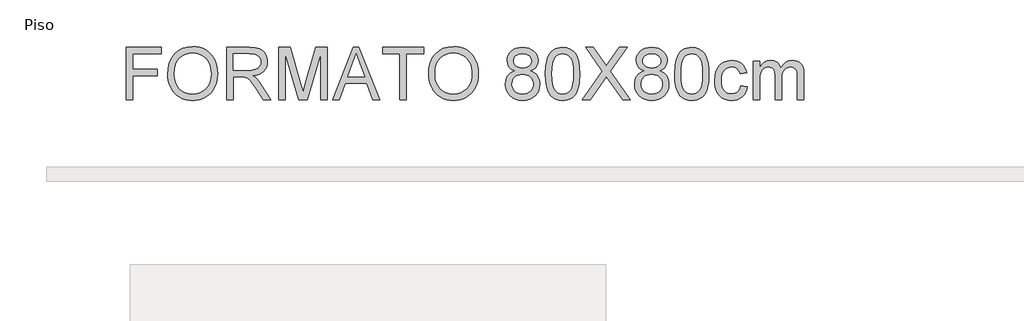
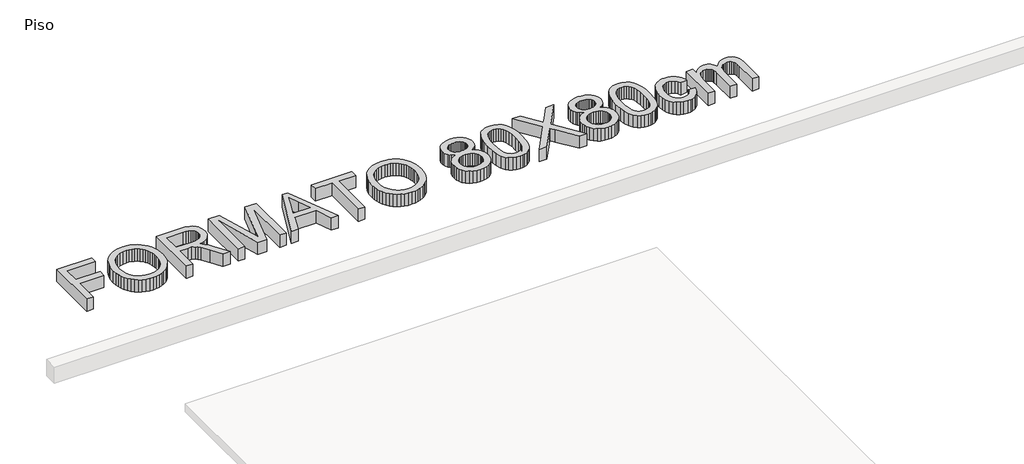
# One storey, part 2 of 2: 1 proxy.
"""IFC4 building model written with IfcOpenShell, lengths in millimetres."""

from ifc_helpers import new_model, si_unit, origin, origin_with_axes, place, context, project, spatial, polyline, outline, extrude, element, save

model = new_model("IFC4")

# Units and contexts
model_context = context("Model", 3, world=origin())
ifc_project = project(units=[si_unit("LENGTHUNIT", "METRE", prefix="MILLI")], contexts=[model_context])

# Site, building, storey
site = spatial("IfcSite", under=ifc_project)
building = spatial("IfcBuilding", under=site)
storey = spatial("IfcBuildingStorey", under=building, Name="Piso", Elevation=0.0)

# Proxy
placement = place(None, origin())
element("IfcBuildingElementProxy", 1, Name="600mm Arial", ObjectType="600mm Arial", at=placement, inside=storey, context=model_context, shape_type="SweptSolid", body=[
    extrude(outline(polyline([(92602.0859381, 2702.6380465), (92602.0859381, 3305.3759074), (93007.0504384, 3305.3759074), (93007.0504384, 3230.0336748), (92677.4281707, 3230.0336748), (92677.4281707, 3051.0958724), (92959.961543, 3051.0958724), (92959.961543, 2975.7536397), (92677.4281707, 2975.7536397), (92677.4281707, 2702.6380465), (92602.0859381, 2702.6380465)])), origin_with_axes(), (0.0, 0.0, 1.0), 150.0),
    extrude(outline(polyline([(93082.392671, 2996.0607259), (93087.4142602, 3066.7584483), (93102.4790279, 3129.3443727), (93127.5869741, 3183.8184992), (93143.9071391, 3208.0136381), (93162.7380987, 3230.1808276), (93205.8262774, 3267.1989534), (93254.7453857, 3293.6404718), (93309.4954237, 3309.5053828), (93370.0763912, 3314.7936865), (93410.6261841, 3312.310483), (93449.134232, 3304.8608726), (93485.6005348, 3292.4448553), (93520.0250925, 3275.062431), (93551.4422148, 3253.2378317), (93578.8862117, 3227.495289), (93602.357083, 3197.8348032), (93621.8548287, 3164.2563741), (93637.1771138, 3127.5233569), (93648.1216032, 3088.3991067), (93654.6882968, 3046.8836235), (93656.8771947, 3002.9769074), (93654.5733337, 2958.4907771), (93647.6617507, 2916.4142739), (93636.1424457, 2876.7473978), (93620.0154187, 2839.4901487), (93599.6623474, 2805.6266111), (93575.4649091, 2776.1408692), (93547.423104, 2751.032923), (93515.5369321, 2730.3027726), (93481.0617906, 2714.0791766), (93445.2530769, 2702.4908937), (93408.110791, 2695.537924), (93369.6349328, 2693.2202674), (93328.3769671, 2695.7816458), (93289.3630815, 2703.465781), (93252.5932761, 2716.272673), (93218.0675508, 2734.2023217), (93186.6872166, 2756.56035), (93159.3535844, 2782.6523805), (93136.0666541, 2812.4784132), (93116.8264257, 2846.0384482), (93101.761658, 2881.9851177), (93091.0011097, 2918.9710538), (93084.5447807, 2956.9962565), (93082.392671, 2996.0607259)]), holes=[polyline([(93157.7349036, 2995.3249619), (93161.5010955, 2945.375784), (93172.7996713, 2901.0368065), (93191.6306309, 2862.3080295), (93217.9939744, 2829.1894529), (93250.0410947, 2802.665161), (93285.9233848, 2783.7192383), (93325.6408447, 2772.3516846), (93369.1934744, 2768.5625001), (93413.4910652, 2772.3884728), (93453.6775746, 2783.8663911), (93489.7530028, 2802.9962548), (93521.7173496, 2829.7780641), (93547.8875551, 2863.5956165), (93566.5805589, 2903.8327097), (93577.7963613, 2950.4893437), (93581.5349621, 3003.5655186), (93579.9346754, 3038.0452586), (93575.1338153, 3070.2625243), (93567.1323819, 3100.2173158), (93555.9303752, 3127.9096329), (93541.6519553, 3152.9761924), (93524.4212823, 3175.0537106), (93504.2383563, 3194.1421877), (93481.1031774, 3210.2416235), (93455.7331153, 3223.0209243), (93428.84554, 3232.1489963), (93400.4404514, 3237.6258395), (93370.5178496, 3239.4514539), (93328.4781346, 3235.9335823), (93289.4734461, 3225.3799676), (93253.503784, 3207.7906097), (93220.5691484, 3183.1655086), (93193.0791663, 3150.318245), (93173.4434648, 3108.0623993), (93161.6620439, 3056.3979716), (93157.7349036, 2995.3249619)])]), origin_with_axes(), (0.0, 0.0, 1.0), 150.0),
    extrude(outline(polyline([(93760.4727645, 2702.6380465), (93760.4727645, 3305.3759074), (94020.1974531, 3305.3759074), (94090.0030617, 3301.3108114), (94140.7891711, 3289.1155232), (94160.3880844, 3279.4218327), (94177.9084644, 3266.6011451), (94193.3503112, 3250.6534606), (94206.7136247, 3231.5787792), (94217.4971656, 3210.4025718), (94225.1996949, 3188.1503097), (94229.8212125, 3164.8219926), (94231.3617183, 3140.4176208), (94228.809537, 3109.4603509), (94221.152993, 3081.0414668), (94208.3920863, 3055.1609684), (94190.5268169, 3031.8188558), (94167.3272585, 3011.76009), (94138.563485, 2995.7296321), (94104.2354964, 2983.727482), (94064.3432925, 2975.7536397), (94089.1753272, 2959.5300438), (94107.1647568, 2943.527177), (94138.0300562, 2906.9229184), (94168.233168, 2865.9776524), (94268.738529, 2702.6380465), (94181.1826142, 2702.6380465), (94102.7501728, 2827.5707721), (94046.0963456, 2910.2706446), (94025.0351013, 2934.3853094), (94006.2915137, 2949.3397125), (93970.4598074, 2963.6871103), (93926.7554263, 2966.3358607), (93835.8149971, 2966.3358607), (93835.8149971, 2702.6380465), (93760.4727645, 2702.6380465)]), holes=[polyline([(93835.8149971, 3041.6780933), (94004.4521037, 3041.6780933), (94052.8837684, 3044.3452377), (94090.4629142, 3052.3466711), (94118.7530396, 3066.2158224), (94139.3176431, 3086.4861203), (94151.8440251, 3111.0054553), (94156.0194857, 3137.6217176), (94154.0283244, 3156.8895371), (94148.0548405, 3174.3731289), (94138.099034, 3190.0724931), (94124.1609049, 3203.9876296), (94105.9185565, 3215.3827744), (94083.050092, 3223.5221635), (94055.5555114, 3228.405797), (94023.4348147, 3230.0336748), (93835.8149971, 3230.0336748), (93835.8149971, 3041.6780933)])]), origin_with_axes(), (0.0, 0.0, 1.0), 150.0),
    extrude(outline(polyline([(94363.2106254, 2702.6380465), (94363.2106254, 3305.3759074), (94492.8522405, 3305.3759074), (94616.1662853, 2880.5457794), (94641.0351082, 2791.8126422), (94667.9640702, 2887.9034193), (94789.2179758, 3305.3759074), (94918.8595909, 3305.3759074), (94918.8595909, 2702.6380465), (94843.5173583, 2702.6380465), (94843.5173583, 3230.0336748), (94692.0971291, 2702.6380465), (94589.9730872, 2702.6380465), (94438.552858, 3230.0336748), (94438.552858, 2702.6380465), (94363.2106254, 2702.6380465)])), origin_with_axes(), (0.0, 0.0, 1.0), 150.0),
    extrude(outline(polyline([(94980.5166133, 2702.6380465), (95221.1114382, 3305.3759074), (95285.2700581, 3305.3759074), (95525.864883, 2702.6380465), (95446.2552192, 2702.6380465), (95377.2405569, 2890.9936281), (95128.9937866, 2890.9936281), (95060.1262771, 2702.6380465), (94980.5166133, 2702.6380465)]), holes=[polyline([(95156.6585126, 2966.3358607), (95349.7229837, 2966.3358607), (95295.4236012, 3114.5187283), (95253.1907481, 3230.0336748), (95215.6667846, 3127.4681746), (95156.6585126, 2966.3358607)])]), origin_with_axes(), (0.0, 0.0, 1.0), 150.0),
    extrude(outline(polyline([(95757.0419287, 2702.6380465), (95757.0419287, 3230.0336748), (95559.2685681, 3230.0336748), (95559.2685681, 3305.3759074), (96030.1575219, 3305.3759074), (96030.1575219, 3230.0336748), (95832.3841613, 3230.0336748), (95832.3841613, 2702.6380465), (95757.0419287, 2702.6380465)])), origin_with_axes(), (0.0, 0.0, 1.0), 150.0),
    extrude(outline(polyline([(96086.6641964, 2996.0607259), (96091.6857856, 3066.7584483), (96106.7505533, 3129.3443727), (96131.8584995, 3183.8184992), (96148.1786645, 3208.0136381), (96167.0096242, 3230.1808276), (96210.0978028, 3267.1989534), (96259.0169111, 3293.6404718), (96313.7669491, 3309.5053828), (96374.3479166, 3314.7936865), (96414.8977096, 3312.310483), (96453.4057574, 3304.8608726), (96489.8720602, 3292.4448553), (96524.2966179, 3275.062431), (96555.7137403, 3253.2378317), (96583.1577371, 3227.495289), (96606.6286084, 3197.8348032), (96626.1263541, 3164.2563741), (96641.4486392, 3127.5233569), (96652.3931286, 3088.3991067), (96658.9598222, 3046.8836235), (96661.1487201, 3002.9769074), (96658.8448591, 2958.4907771), (96651.9332761, 2916.4142739), (96640.4139711, 2876.7473978), (96624.2869442, 2839.4901487), (96603.9338728, 2805.6266111), (96579.7364345, 2776.1408692), (96551.6946295, 2751.032923), (96519.8084575, 2730.3027726), (96485.3333161, 2714.0791766), (96449.5246024, 2702.4908937), (96412.3823164, 2695.537924), (96373.9064582, 2693.2202674), (96332.6484925, 2695.7816458), (96293.6346069, 2703.465781), (96256.8648015, 2716.272673), (96222.3390762, 2734.2023217), (96190.958742, 2756.56035), (96163.6251098, 2782.6523805), (96140.3381795, 2812.4784132), (96121.0979512, 2846.0384482), (96106.0331835, 2881.9851177), (96095.2726351, 2918.9710538), (96088.8163061, 2956.9962565), (96086.6641964, 2996.0607259)]), holes=[polyline([(96162.006429, 2995.3249619), (96165.7726209, 2945.375784), (96177.0711967, 2901.0368065), (96195.9021564, 2862.3080295), (96222.2654998, 2829.1894529), (96254.3126201, 2802.665161), (96290.1949102, 2783.7192383), (96329.9123701, 2772.3516846), (96373.4649998, 2768.5625001), (96417.7625906, 2772.3884728), (96457.9491, 2783.8663911), (96494.0245282, 2802.9962548), (96525.988875, 2829.7780641), (96552.1590805, 2863.5956165), (96570.8520844, 2903.8327097), (96582.0678867, 2950.4893437), (96585.8064875, 3003.5655186), (96584.2062008, 3038.0452586), (96579.4053407, 3070.2625243), (96571.4039074, 3100.2173158), (96560.2019006, 3127.9096329), (96545.9234807, 3152.9761924), (96528.6928077, 3175.0537106), (96508.5098818, 3194.1421877), (96485.3747028, 3210.2416235), (96460.0046407, 3223.0209243), (96433.1170654, 3232.1489963), (96404.7119768, 3237.6258395), (96374.789375, 3239.4514539), (96332.74966, 3235.9335823), (96293.7449715, 3225.3799676), (96257.7753094, 3207.7906097), (96224.8406738, 3183.1655086), (96197.3506917, 3150.318245), (96177.7149902, 3108.0623993), (96165.9335693, 3056.3979716), (96162.006429, 2995.3249619)])]), origin_with_axes(), (0.0, 0.0, 1.0), 150.0),
    extrude(outline(polyline([(97081.711417, 3034.614759), (97041.3731562, 3054.4803867), (97025.7151788, 3067.0619509), (97013.0646367, 3081.4093488), (96996.3444, 3114.8498221), (96990.7709878, 3154.2499838), (96993.8060142, 3184.9773275), (97002.9110936, 3213.1478912), (97018.0862259, 3238.7616751), (97039.3314111, 3261.8186792), (97065.6257767, 3280.8749665), (97095.9484502, 3294.4866004), (97130.2994315, 3302.6535807), (97168.6787206, 3305.3759074), (97207.2419508, 3302.5892013), (97241.8504495, 3294.229083), (97272.5042167, 3280.2955524), (97299.2032525, 3260.7886096), (97320.8347138, 3237.2809501), (97336.2857576, 3211.3452695), (97345.5563839, 3182.9815676), (97348.6465927, 3152.1898446), (97343.1467568, 3114.0588758), (97326.6472494, 3081.1886196), (97314.2266335, 3066.9377908), (97298.9641292, 3054.4252044), (97259.9134554, 3034.614759), (97284.6765122, 3024.0795383), (97306.2849809, 3010.7208234), (97324.7388615, 2994.5386141), (97340.038154, 2975.5329105), (97352.0449026, 2954.126777), (97360.6211516, 2930.7432776), (97365.766901, 2905.3824126), (97367.4821508, 2878.0441818), (97364.0792424, 2840.465036), (97353.870517, 2806.0128872), (97336.8559747, 2774.6877353), (97313.0356155, 2746.4895804), (97283.6602382, 2723.184256), (97249.9806416, 2706.5375957), (97211.9968256, 2696.5495995), (97169.7087902, 2693.2202674), (97127.4207549, 2696.5633951), (97089.4369389, 2706.592778), (97055.7573422, 2723.3084161), (97026.3819649, 2746.7103095), (97002.5616057, 2775.1062011), (96985.5470634, 2806.8038335), (96975.3383381, 2841.8032068), (96971.9354296, 2880.104321), (96973.7196573, 2908.688752), (96979.0723403, 2934.8451619), (96987.9934787, 2958.5735506), (97000.4830724, 2979.8739181), (97016.26521, 2998.3599883), (97035.06398, 3013.6454852), (97056.8793823, 3025.7304088), (97081.711417, 3034.614759)]), holes=[polyline([(97066.1132204, 3152.0426918), (97067.7824849, 3134.7706322), (97072.7902786, 3119.1540415), (97081.1366013, 3105.1929197), (97092.8214532, 3092.887267), (97107.6976814, 3082.8440885), (97125.6181331, 3075.6703896), (97146.5828083, 3071.3661703), (97170.591707, 3069.9314305), (97194.007396, 3071.3569732), (97214.5168172, 3075.6336014), (97232.1199707, 3082.7613151), (97246.8168564, 3092.7401142), (97258.4051392, 3104.7882496), (97266.6824841, 3118.1239719), (97271.6488911, 3132.7472812), (97273.3043601, 3148.6581775), (97271.5937088, 3165.1898746), (97266.4617549, 3180.3512114), (97257.9084986, 3194.1421877), (97245.9339396, 3206.5628035), (97230.9059601, 3216.8313097), (97213.192442, 3224.165957), (97192.7933854, 3228.5667454), (97169.7087902, 3230.0336748), (97146.4448525, 3228.598935), (97125.9492269, 3224.2947157), (97108.2219132, 3217.1210168), (97093.2629116, 3207.0778383), (97081.3849217, 3195.029703), (97072.9006432, 3181.8411334), (97067.8100761, 3167.5121297), (97066.1132204, 3152.0426918)]), polyline([(97047.2776622, 2882.7530714), (97050.4230533, 2853.929517), (97059.8592264, 2826.0256677), (97077.2784389, 2801.6902737), (97104.3729479, 2783.5720855), (97136.8201398, 2772.3148964), (97170.2974014, 2768.5625001), (97197.5390631, 2770.5352673), (97221.5801515, 2776.4535689), (97242.4206666, 2786.3174049), (97260.0606082, 2800.1267752), (97274.0953063, 2816.9803692), (97284.1200907, 2835.9768757), (97290.1349613, 2857.1162948), (97292.1399182, 2880.3986266), (97290.070582, 2904.0534389), (97283.8625733, 2925.5745356), (97273.5158922, 2944.9619167), (97259.0305386, 2962.2155823), (97240.9123504, 2976.3790391), (97219.6671652, 2986.495794), (97195.294983, 2992.5658469), (97167.7958038, 2994.5891979), (97140.9542138, 2992.5934381), (97117.2304236, 2986.6061586), (97096.6244333, 2976.6273595), (97079.136243, 2962.6570407), (97065.1981139, 2945.6884837), (97055.2423074, 2926.7149698), (97049.2688235, 2905.736499), (97047.2776622, 2882.7530714)])]), origin_with_axes(), (0.0, 0.0, 1.0), 150.0),
    extrude(outline(polyline([(97433.4066044, 2999.1509346), (97438.9432284, 3095.6279879), (97445.8640084, 3136.5410643), (97455.5531005, 3172.5705072), (97467.9691178, 3204.0106222), (97483.0706737, 3231.1557149), (97500.8577682, 3254.0057853), (97521.3304012, 3272.5608335), (97544.5575507, 3286.9174283), (97570.6081945, 3297.1721389), (97599.4823325, 3303.3249653), (97631.179965, 3305.3759074), (97677.6066727, 3300.5198651), (97719.1773382, 3285.9517381), (97753.9421867, 3262.2417435), (97779.9514438, 3229.9600984), (97799.5963424, 3189.3827143), (97815.2681153, 3140.7855028), (97825.532023, 3079.0732981), (97828.9533256, 2999.1509346), (97823.4718838, 2903.2257044), (97816.6200817, 2862.4505838), (97807.0275587, 2826.4671261), (97794.7081103, 2795.0132155), (97779.6755323, 2767.8267361), (97761.9298246, 2744.9076878), (97741.4709871, 2726.2560706), (97718.2162465, 2711.8029067), (97692.0828293, 2701.4792182), (97663.0707354, 2695.2850051), (97631.179965, 2693.2202674), (97589.6828759, 2696.8071169), (97552.8946764, 2707.5676653), (97520.8153664, 2725.5019125), (97493.444946, 2750.6098587), (97467.1781715, 2795.9972999), (97448.4161898, 2852.5499596), (97437.1590007, 2920.2678378), (97433.4066044, 2999.1509346)]), holes=[polyline([(97508.748837, 2999.2980874), (97510.9561289, 2933.8012967), (97517.5780048, 2880.7849027), (97528.6144647, 2840.2489053), (97544.0655085, 2812.1933047), (97562.7539139, 2793.1048277), (97583.5024584, 2779.4702012), (97606.3111421, 2771.2894254), (97631.179965, 2768.5625001), (97656.0487878, 2771.2986224), (97678.8574715, 2779.5069894), (97699.6060161, 2793.1876011), (97718.2944214, 2812.3404575), (97733.7454652, 2840.4420434), (97744.7819251, 2880.9688437), (97751.403801, 2933.9208584), (97753.611093, 2999.2980874), (97751.4773774, 3063.0612342), (97745.0762307, 3115.1441277), (97734.4076528, 3155.5467678), (97719.4716438, 3184.2691546), (97701.0959381, 3204.2911322), (97680.1082703, 3218.5925448), (97656.5086403, 3227.1733923), (97630.2970482, 3230.0336748), (97605.556984, 3227.5136831), (97583.1345764, 3219.9537081), (97563.0298254, 3207.3537498), (97545.2427309, 3189.7138081), (97529.2766523, 3158.4438385), (97517.8723104, 3116.2845619), (97511.0297053, 3063.2359782), (97508.748837, 2999.2980874)])]), origin_with_axes(), (0.0, 0.0, 1.0), 150.0),
    extrude(outline(polyline([(97857.2066628, 2702.6380465), (98089.5609309, 3031.0830918), (97894.8777791, 3305.3759074), (97985.2295971, 3305.3759074), (98094.8584317, 3151.0126222), (98121.0148415, 3111.9067662), (98131.793784, 3090.8271278), (98175.0567066, 3152.0426918), (98283.5083188, 3305.3759074), (98375.184512, 3305.3759074), (98180.5013602, 3030.200175), (98412.8556283, 2702.6380465), (98322.5038103, 2702.6380465), (98167.6990667, 2921.0127989), (98135.4726039, 2966.3358607), (98100.0087796, 2916.5982149), (97948.882856, 2702.6380465), (97857.2066628, 2702.6380465)])), origin_with_axes(), (0.0, 0.0, 1.0), 150.0),
    extrude(outline(polyline([(98569.7205111, 3034.614759), (98529.3822503, 3054.4803867), (98513.7242729, 3067.0619509), (98501.0737308, 3081.4093488), (98484.3534941, 3114.8498221), (98478.7800818, 3154.2499838), (98481.8151083, 3184.9773275), (98490.9201877, 3213.1478912), (98506.09532, 3238.7616751), (98527.3405052, 3261.8186792), (98553.6348708, 3280.8749665), (98583.9575443, 3294.4866004), (98618.3085256, 3302.6535807), (98656.6878147, 3305.3759074), (98695.2510449, 3302.5892013), (98729.8595436, 3294.229083), (98760.5133108, 3280.2955524), (98787.2123466, 3260.7886096), (98808.8438079, 3237.2809501), (98824.2948517, 3211.3452695), (98833.565478, 3182.9815676), (98836.6556868, 3152.1898446), (98831.1558509, 3114.0588758), (98814.6563434, 3081.1886196), (98802.2357276, 3066.9377908), (98786.9732233, 3054.4252044), (98747.9225495, 3034.614759), (98772.6856063, 3024.0795383), (98794.294075, 3010.7208234), (98812.7479556, 2994.5386141), (98828.0472481, 2975.5329105), (98840.0539967, 2954.126777), (98848.6302457, 2930.7432776), (98853.7759951, 2905.3824126), (98855.4912449, 2878.0441818), (98852.0883365, 2840.465036), (98841.8796111, 2806.0128872), (98824.8650688, 2774.6877353), (98801.0447096, 2746.4895804), (98771.6693323, 2723.184256), (98737.9897356, 2706.5375957), (98700.0059196, 2696.5495995), (98657.7178843, 2693.2202674), (98615.429849, 2696.5633951), (98577.446033, 2706.592778), (98543.7664363, 2723.3084161), (98514.391059, 2746.7103095), (98490.5706998, 2775.1062011), (98473.5561575, 2806.8038335), (98463.3474321, 2841.8032068), (98459.9445237, 2880.104321), (98461.7287514, 2908.688752), (98467.0814344, 2934.8451619), (98476.0025728, 2958.5735506), (98488.4921665, 2979.8739181), (98504.2743041, 2998.3599883), (98523.0730741, 3013.6454852), (98544.8884764, 3025.7304088), (98569.7205111, 3034.614759)]), holes=[polyline([(98554.1223145, 3152.0426918), (98555.791579, 3134.7706322), (98560.7993727, 3119.1540415), (98569.1456954, 3105.1929197), (98580.8305473, 3092.887267), (98595.7067755, 3082.8440885), (98613.6272272, 3075.6703896), (98634.5919024, 3071.3661703), (98658.6008011, 3069.9314305), (98682.0164901, 3071.3569732), (98702.5259113, 3075.6336014), (98720.1290648, 3082.7613151), (98734.8259505, 3092.7401142), (98746.4142333, 3104.7882496), (98754.6915782, 3118.1239719), (98759.6579852, 3132.7472812), (98761.3134541, 3148.6581775), (98759.6028029, 3165.1898746), (98754.470849, 3180.3512114), (98745.9175926, 3194.1421877), (98733.9430337, 3206.5628035), (98718.9150542, 3216.8313097), (98701.2015361, 3224.165957), (98680.8024795, 3228.5667454), (98657.7178843, 3230.0336748), (98634.4539466, 3228.598935), (98613.958321, 3224.2947157), (98596.2310073, 3217.1210168), (98581.2720057, 3207.0778383), (98569.3940158, 3195.029703), (98560.9097373, 3181.8411334), (98555.8191702, 3167.5121297), (98554.1223145, 3152.0426918)]), polyline([(98535.2867563, 2882.7530714), (98538.4321474, 2853.929517), (98547.8683205, 2826.0256677), (98565.287533, 2801.6902737), (98592.382042, 2783.5720855), (98624.8292339, 2772.3148964), (98658.3064955, 2768.5625001), (98685.5481572, 2770.5352673), (98709.5892456, 2776.4535689), (98730.4297606, 2786.3174049), (98748.0697023, 2800.1267752), (98762.1044004, 2816.9803692), (98772.1291848, 2835.9768757), (98778.1440554, 2857.1162948), (98780.1490123, 2880.3986266), (98778.0796761, 2904.0534389), (98771.8716674, 2925.5745356), (98761.5249863, 2944.9619167), (98747.0396327, 2962.2155823), (98728.9214445, 2976.3790391), (98707.6762592, 2986.495794), (98683.3040771, 2992.5658469), (98655.8048979, 2994.5891979), (98628.9633079, 2992.5934381), (98605.2395177, 2986.6061586), (98584.6335274, 2976.6273595), (98567.1453371, 2962.6570407), (98553.207208, 2945.6884837), (98543.2514015, 2926.7149698), (98537.2779176, 2905.736499), (98535.2867563, 2882.7530714)])]), origin_with_axes(), (0.0, 0.0, 1.0), 150.0),
    extrude(outline(polyline([(98921.4156984, 2999.1509346), (98926.9523225, 3095.6279879), (98933.8731025, 3136.5410643), (98943.5621946, 3172.5705072), (98955.9782119, 3204.0106222), (98971.0797678, 3231.1557149), (98988.8668623, 3254.0057853), (99009.3394953, 3272.5608335), (99032.5666448, 3286.9174283), (99058.6172885, 3297.1721389), (99087.4914266, 3303.3249653), (99119.189059, 3305.3759074), (99165.6157668, 3300.5198651), (99207.1864323, 3285.9517381), (99241.9512808, 3262.2417435), (99267.9605379, 3229.9600984), (99287.6054364, 3189.3827143), (99303.2772094, 3140.7855028), (99313.5411171, 3079.0732981), (99316.9624197, 2999.1509346), (99311.4809779, 2903.2257044), (99304.6291758, 2862.4505838), (99295.0366527, 2826.4671261), (99282.7172044, 2795.0132155), (99267.6846264, 2767.8267361), (99249.9389187, 2744.9076878), (99229.4800812, 2726.2560706), (99206.2253406, 2711.8029067), (99180.0919234, 2701.4792182), (99151.0798295, 2695.2850051), (99119.189059, 2693.2202674), (99077.69197, 2696.8071169), (99040.9037705, 2707.5676653), (99008.8244605, 2725.5019125), (98981.4540401, 2750.6098587), (98955.1872656, 2795.9972999), (98936.4252838, 2852.5499596), (98925.1680948, 2920.2678378), (98921.4156984, 2999.1509346)]), holes=[polyline([(98996.7579311, 2999.2980874), (98998.965223, 2933.8012967), (99005.5870989, 2880.7849027), (99016.6235588, 2840.2489053), (99032.0746026, 2812.1933047), (99050.7630079, 2793.1048277), (99071.5115525, 2779.4702012), (99094.3202362, 2771.2894254), (99119.189059, 2768.5625001), (99144.0578819, 2771.2986224), (99166.8665656, 2779.5069894), (99187.6151102, 2793.1876011), (99206.3035155, 2812.3404575), (99221.7545593, 2840.4420434), (99232.7910192, 2880.9688437), (99239.4128951, 2933.9208584), (99241.620187, 2999.2980874), (99239.4864715, 3063.0612342), (99233.0853248, 3115.1441277), (99222.4167469, 3155.5467678), (99207.4807379, 3184.2691546), (99189.1050322, 3204.2911322), (99168.1173644, 3218.5925448), (99144.5177344, 3227.1733923), (99118.3061423, 3230.0336748), (99093.5660781, 3227.5136831), (99071.1436705, 3219.9537081), (99051.0389194, 3207.3537498), (99033.251825, 3189.7138081), (99017.2857464, 3158.4438385), (99005.8814045, 3116.2845619), (98999.0387994, 3063.2359782), (98996.7579311, 2999.2980874)])]), origin_with_axes(), (0.0, 0.0, 1.0), 150.0),
    extrude(outline(polyline([(99684.2558036, 2862.7402908), (99759.5980363, 2853.3225117), (99751.4034648, 2817.7713154), (99738.5919743, 2786.3128063), (99721.1635648, 2758.9469844), (99699.1182362, 2735.6738497), (99673.3848907, 2717.1004075), (99644.8924302, 2703.833663), (99613.6408547, 2695.8736163), (99579.6301642, 2693.2202674), (99537.3743185, 2696.92208), (99499.4870716, 2708.0275178), (99465.9684233, 2726.5365806), (99436.8183737, 2752.4492687), (99413.2233422, 2785.2781382), (99396.3697483, 2824.5357456), (99386.257592, 2870.2220909), (99382.8868732, 2922.337174), (99388.6442264, 2989.3836677), (99395.8409179, 3019.5545898), (99405.9162861, 3047.4906288), (99418.9393087, 3072.6307646), (99434.9789637, 3094.4139773), (99454.0352511, 3112.8402667), (99476.1081708, 3127.9096329), (99500.1998429, 3139.6266745), (99525.3123876, 3147.9959899), (99551.4458049, 3153.0175791), (99578.6000946, 3154.6914422), (99612.0267724, 3152.3921797), (99642.2620739, 3145.4943923), (99669.3059991, 3133.99808), (99693.1585479, 3117.9032427), (99713.4150503, 3097.5777624), (99729.6708359, 3073.3895213), (99741.9259049, 3045.3385191), (99750.1802572, 3013.4247561), (99674.8380246, 3004.006977), (99661.1712084, 3036.8772332), (99639.889235, 3060.440075), (99612.1693267, 3074.6219259), (99579.1887058, 3079.3492096), (99553.5887175, 3077.022356), (99530.4995238, 3070.0417951), (99509.9211247, 3058.407527), (99491.8535202, 3042.1195517), (99477.1428389, 3020.8007901), (99466.6352094, 2994.0741631), (99460.3306317, 2961.9396708), (99458.2291058, 2924.3973132), (99460.2846465, 2886.289337), (99466.4512684, 2853.7823642), (99476.7289716, 2826.8763948), (99491.1177562, 2805.5714288), (99508.8266757, 2789.3800225), (99529.064784, 2777.8147322), (99551.832081, 2770.8755581), (99577.1285666, 2768.5625001), (99616.1424522, 2774.3382474), (99633.0144402, 2781.5579315), (99648.1297917, 2791.6654894), (99661.0654424, 2804.7712854), (99671.3983279, 2820.9856844), (99679.1284483, 2840.3086862), (99684.2558036, 2862.7402908)])), origin_with_axes(), (0.0, 0.0, 1.0), 150.0),
    extrude(outline(polyline([(99825.5224898, 2702.6380465), (99825.5224898, 3145.2736631), (99900.8647224, 3145.2736631), (99900.8647224, 3072.4330281), (99923.5262533, 3105.8918955), (99952.6625073, 3132.1034877), (99987.2802031, 3149.0444536), (100026.3860592, 3154.6914422), (100068.2878184, 3148.934089), (100086.1208981, 3141.7373974), (100101.8754446, 3131.6620293), (100126.9649966, 3104.0156974), (100143.3725336, 3067.1355273), (100170.8349246, 3105.4412401), (100202.1600765, 3132.8024635), (100237.3479893, 3149.2191975), (100276.3986631, 3154.6914422), (100306.5603882, 3152.4151724), (100333.0340962, 3145.5863628), (100355.8197873, 3134.2050136), (100374.9174614, 3118.2711247), (100390.0144188, 3097.6007551), (100400.7979597, 3072.0099638), (100407.2680843, 3041.4987508), (100409.4247925, 3006.0671161), (100409.4247925, 2702.6380465), (100334.0825599, 2702.6380465), (100334.0825599, 2973.6935006), (100332.3351204, 3011.2726464), (100327.092802, 3036.6013217), (100317.2703527, 3053.9469578), (100301.7825207, 3067.5769857), (100281.8617107, 3076.4061536), (100258.7403273, 3079.3492096), (100237.389376, 3077.4638144), (100217.9238199, 3071.8076287), (100200.3436591, 3062.3806526), (100184.6488935, 3049.182886), (100171.740834, 3031.8280529), (100162.5207915, 3009.9298771), (100156.988766, 2983.4883587), (100155.1447575, 2952.5034976), (100155.1447575, 2702.6380465), (100079.8025249, 2702.6380465), (100079.8025249, 2982.0812101), (100075.4431232, 3024.6819451), (100069.9938712, 3041.4021818), (100062.3649183, 3055.0689979), (100052.2527619, 3065.6915905), (100039.3538995, 3073.2791567), (100023.6683309, 3077.8316964), (100005.1960562, 3079.3492096), (99976.1701668, 3075.3025076), (99949.4251458, 3063.1624018), (99927.3522261, 3043.2231977), (99912.3426407, 3015.7792008), (99903.734202, 2977.7034143), (99900.8647224, 2925.8688412), (99900.8647224, 2702.6380465), (99825.5224898, 2702.6380465)])), origin_with_axes(), (0.0, 0.0, 1.0), 150.0),
])

save(model, "model.ifc")
